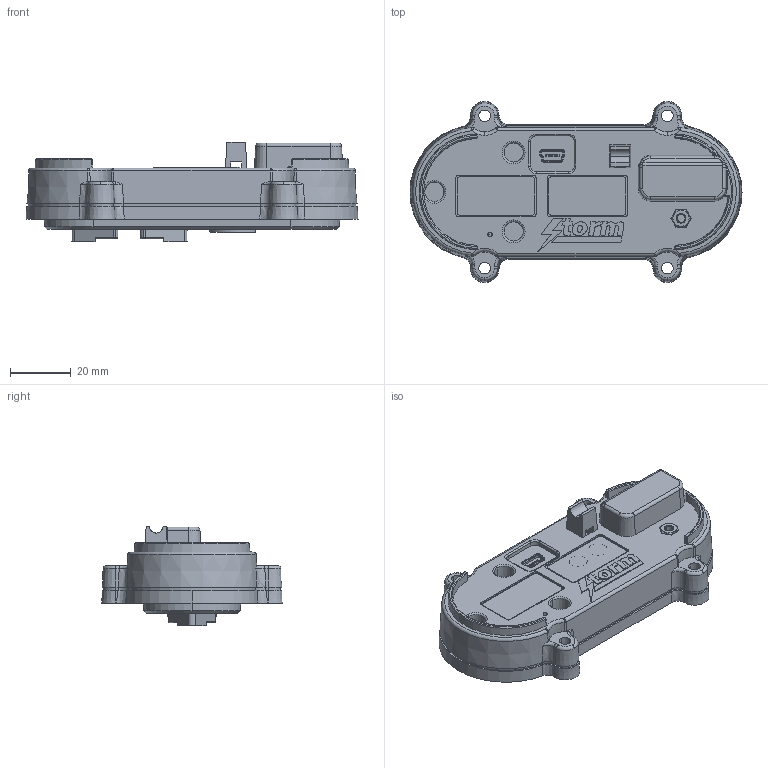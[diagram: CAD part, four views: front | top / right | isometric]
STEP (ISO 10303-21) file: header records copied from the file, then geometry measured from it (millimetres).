
FILE_DESCRIPTION (( 'STEP AP214' ), '1' );
FILE_NAME ('AT02-43001~1.STEP', '2018-02-07T12:52:19', ( '' ), ( '' ), 'SwSTEP 2.0', 'SolidWorks 2017', '' );
FILE_SCHEMA (( 'AUTOMOTIVE_DESIGN' ));
Length unit declared in the file: millimetre
Products named in the file (1): AT02-43001~1
Bounding box: 109 x 59.5 x 32.7 mm (x, y, z)
Volume: 81400.5 mm3; surface area: 26231.5 mm2
Topology: 2 solids, 20 shells, 1193 faces, 3019 edges, 1915 vertices
Faces by surface type: plane 474, cone 263, cylinder 186, bspline 116, torus 104, sphere 50
Entity records: 52397 total; most frequent: CARTESIAN_POINT 11174, ORIENTED_EDGE 6036, DIRECTION 5745, EDGE_CURVE 3018, AXIS2_PLACEMENT_3D 2175, VERTEX_POINT 1915, VECTOR 1395, LINE 1395
